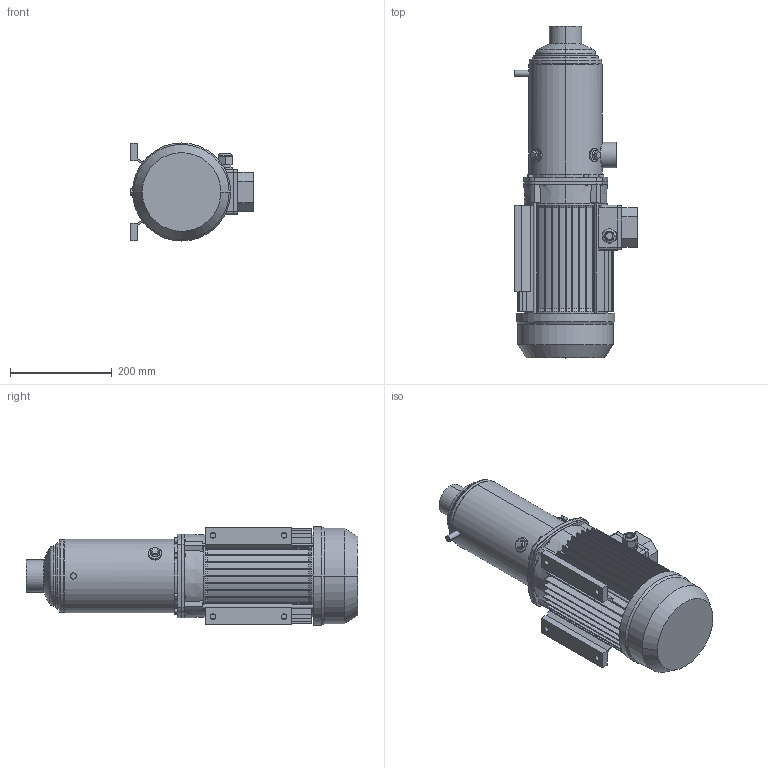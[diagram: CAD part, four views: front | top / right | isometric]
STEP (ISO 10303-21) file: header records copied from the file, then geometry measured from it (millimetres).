
FILE_DESCRIPTION((''),'2;1');
FILE_NAME('MATRIX_18-6T_4_IE2_ASM','2011-10-10T',('Utente'),('"Ebara Pumps Europe +39.444.706811"'),'PRO/ENGINEER BY PARAMETRIC TECHNOLOGY CORPORATION, 2009360','PRO/ENGINEER BY PARAMETRIC TECHNOLOGY CORPORATION, 2009360','');
FILE_SCHEMA(('AUTOMOTIVE_DESIGN { 1 0 10303 214 1 1 1 1 }'));
Length unit declared in the file: millimetre
Products named in the file (4): CORPO_POMPA_MATRIX_18-6; SUPPORTO_MATRIX_MEC_100; MEC_100X170_IE2_ZAMPATO; MATRIX_18-6T_4_IE2_ASM
Assembly tree (3 placements, depth 2):
  MATRIX_18-6T_4_IE2_ASM
    CORPO_POMPA_MATRIX_18-6
    SUPPORTO_MATRIX_MEC_100
    MEC_100X170_IE2_ZAMPATO
Bounding box: 241 x 652.3 x 192.8 mm (x, y, z)
Volume: 8713433.4 mm3; surface area: 896052.5 mm2
Topology: 3 solids, 3 shells, 618 faces, 1476 edges, 912 vertices
Faces by surface type: plane 326, cylinder 176, cone 98, torus 14, sphere 2, bspline 2
Entity records: 23939 total; most frequent: CARTESIAN_POINT 4057, DIRECTION 3150, ORIENTED_EDGE 2952, PRESENTATION_STYLE_ASSIGNMENT 1479, STYLED_ITEM 1479, CURVE_STYLE 1476, EDGE_CURVE 1476, AXIS2_PLACEMENT_3D 1203
